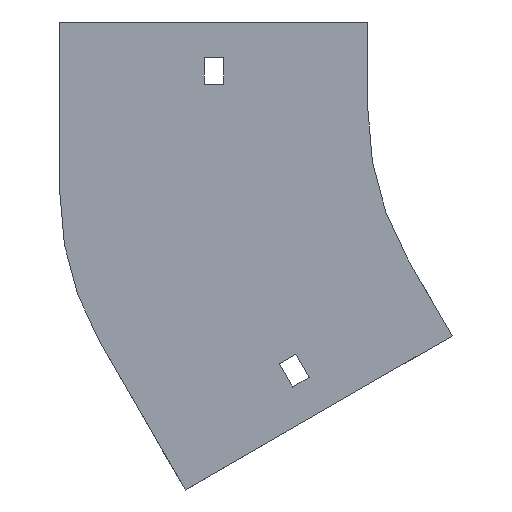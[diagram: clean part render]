
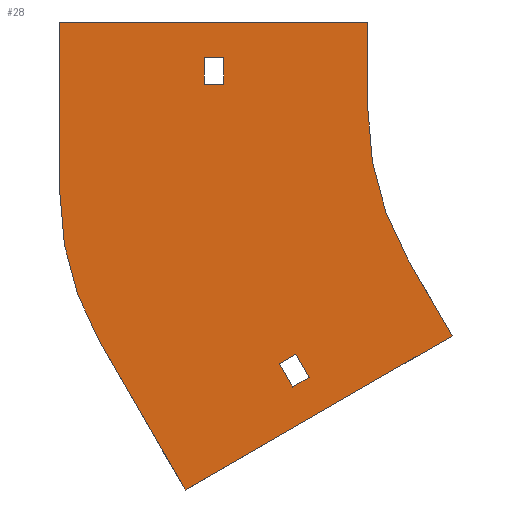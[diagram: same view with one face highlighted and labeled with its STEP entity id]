
A CAD part, front view. The second image highlights one B-rep face of the part: STEP entity #28.
In plain terms, the highlighted planar face has unit normal (0, -1, 0).
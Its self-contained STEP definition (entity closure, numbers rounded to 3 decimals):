
#28 = ADVANCED_FACE ( 'NONE', ( #1509, #1801, #145 ), #1519, .T. ) ;
#36 = DIRECTION ( 'NONE',  ( 0., 0., -1. ) ) ;
#47 = VERTEX_POINT ( 'NONE', #154 ) ;
#52 = CARTESIAN_POINT ( 'NONE',  ( -86.603, 0., -50. ) ) ;
#53 = VECTOR ( 'NONE', #1025, 1000. ) ;
#74 = VERTEX_POINT ( 'NONE', #461 ) ;
#81 = DIRECTION ( 'NONE',  ( 0., 0., 1. ) ) ;
#106 = VECTOR ( 'NONE', #666, 1000. ) ;
#114 = CARTESIAN_POINT ( 'NONE',  ( -161.669, 0., -127.981 ) ) ;
#139 = EDGE_CURVE ( 'NONE', #917, #202, #472, .T. ) ;
#145 = FACE_BOUND ( 'NONE', #1162, .T. ) ;
#154 = CARTESIAN_POINT ( 'NONE',  ( -155.25, 0., 18. ) ) ;
#202 = VERTEX_POINT ( 'NONE', #672 ) ;
#270 = DIRECTION ( 'NONE',  ( 0., 1., 0. ) ) ;
#281 = CARTESIAN_POINT ( 'NONE',  ( -148.75, 0., 18. ) ) ;
#287 = ORIENTED_EDGE ( 'NONE', *, *, #1040, .F. ) ;
#294 = EDGE_LOOP ( 'NONE', ( #1302, #1260, #321, #539, #1923, #1606, #287, #1077 ) ) ;
#300 = VECTOR ( 'NONE', #1696, 1000. ) ;
#305 = CIRCLE ( 'NONE', #340, 100. ) ;
#315 = EDGE_CURVE ( 'NONE', #1716, #930, #394, .T. ) ;
#321 = ORIENTED_EDGE ( 'NONE', *, *, #1390, .F. ) ;
#325 = ORIENTED_EDGE ( 'NONE', *, *, #796, .T. ) ;
#326 = CARTESIAN_POINT ( 'NONE',  ( -204., 0., -27.867 ) ) ;
#333 = VECTOR ( 'NONE', #1668, 1000. ) ;
#335 = CARTESIAN_POINT ( 'NONE',  ( -148.75, 0., 9. ) ) ;
#338 = AXIS2_PLACEMENT_3D ( 'NONE', #430, #895, #757 ) ;
#340 = AXIS2_PLACEMENT_3D ( 'NONE', #1005, #270, #883 ) ;
#366 = VERTEX_POINT ( 'NONE', #730 ) ;
#380 = CARTESIAN_POINT ( 'NONE',  ( -71.603, 0., -75.981 ) ) ;
#389 = EDGE_LOOP ( 'NONE', ( #325, #634, #1196, #1699 ) ) ;
#394 = LINE ( 'NONE', #380, #1250 ) ;
#415 = LINE ( 'NONE', #1448, #748 ) ;
#430 = CARTESIAN_POINT ( 'NONE',  ( 0., 0., 0. ) ) ;
#461 = CARTESIAN_POINT ( 'NONE',  ( -125.45, 0., -93.213 ) ) ;
#472 = LINE ( 'NONE', #335, #333 ) ;
#508 = EDGE_CURVE ( 'NONE', #1498, #1945, #1667, .T. ) ;
#522 = LINE ( 'NONE', #52, #106 ) ;
#539 = ORIENTED_EDGE ( 'NONE', *, *, #1825, .F. ) ;
#547 = CARTESIAN_POINT ( 'NONE',  ( -129.95, 0., -85.419 ) ) ;
#571 = CARTESIAN_POINT ( 'NONE',  ( -155.25, 0., 9. ) ) ;
#585 = CARTESIAN_POINT ( 'NONE',  ( -100., 0., 0. ) ) ;
#634 = ORIENTED_EDGE ( 'NONE', *, *, #645, .T. ) ;
#645 = EDGE_CURVE ( 'NONE', #47, #917, #1236, .T. ) ;
#666 = DIRECTION ( 'NONE',  ( 0.5, 0., -0.866 ) ) ;
#672 = CARTESIAN_POINT ( 'NONE',  ( -148.75, 0., 9. ) ) ;
#695 = CARTESIAN_POINT ( 'NONE',  ( -161.669, 0., -127.981 ) ) ;
#700 = CARTESIAN_POINT ( 'NONE',  ( -204., 0., -27.867 ) ) ;
#722 = CARTESIAN_POINT ( 'NONE',  ( -129.95, 0., -85.419 ) ) ;
#729 = EDGE_CURVE ( 'NONE', #202, #1010, #963, .T. ) ;
#730 = CARTESIAN_POINT ( 'NONE',  ( -86.603, 0., -50. ) ) ;
#748 = VECTOR ( 'NONE', #1330, 1000. ) ;
#756 = EDGE_CURVE ( 'NONE', #366, #1716, #522, .T. ) ;
#757 = DIRECTION ( 'NONE',  ( 0., 0., -1. ) ) ;
#774 = DIRECTION ( 'NONE',  ( 0., 0., -1. ) ) ;
#787 = VECTOR ( 'NONE', #36, 1000. ) ;
#796 = EDGE_CURVE ( 'NONE', #1010, #47, #415, .T. ) ;
#801 = DIRECTION ( 'NONE',  ( 1., 0., 0. ) ) ;
#813 = VECTOR ( 'NONE', #1598, 1000. ) ;
#837 = EDGE_CURVE ( 'NONE', #1119, #1498, #1169, .T. ) ;
#838 = EDGE_CURVE ( 'NONE', #879, #1261, #1297, .T. ) ;
#847 = VECTOR ( 'NONE', #1787, 1000. ) ;
#849 = EDGE_CURVE ( 'NONE', #74, #879, #1931, .T. ) ;
#876 = CIRCLE ( 'NONE', #338, 100. ) ;
#879 = VERTEX_POINT ( 'NONE', #1309 ) ;
#883 = DIRECTION ( 'NONE',  ( 0., 0., 1. ) ) ;
#895 = DIRECTION ( 'NONE',  ( 0., -1., 0. ) ) ;
#900 = EDGE_CURVE ( 'NONE', #1261, #947, #1629, .T. ) ;
#917 = VERTEX_POINT ( 'NONE', #281 ) ;
#930 = VERTEX_POINT ( 'NONE', #114 ) ;
#932 = CARTESIAN_POINT ( 'NONE',  ( -204., 0., 30. ) ) ;
#947 = VERTEX_POINT ( 'NONE', #547 ) ;
#963 = LINE ( 'NONE', #1134, #300 ) ;
#996 = CARTESIAN_POINT ( 'NONE',  ( -124.321, 0., -82.169 ) ) ;
#1005 = CARTESIAN_POINT ( 'NONE',  ( -104., 0., -27.867 ) ) ;
#1009 = LINE ( 'NONE', #1019, #1750 ) ;
#1010 = VERTEX_POINT ( 'NONE', #571 ) ;
#1013 = CARTESIAN_POINT ( 'NONE',  ( -100., 0., 30. ) ) ;
#1019 = CARTESIAN_POINT ( 'NONE',  ( -129.95, 0., -85.419 ) ) ;
#1025 = DIRECTION ( 'NONE',  ( -0.5, 0., 0.866 ) ) ;
#1040 = EDGE_CURVE ( 'NONE', #1866, #366, #876, .T. ) ;
#1077 = ORIENTED_EDGE ( 'NONE', *, *, #1574, .F. ) ;
#1108 = ORIENTED_EDGE ( 'NONE', *, *, #900, .F. ) ;
#1119 = VERTEX_POINT ( 'NONE', #326 ) ;
#1134 = CARTESIAN_POINT ( 'NONE',  ( -155.25, 0., 9. ) ) ;
#1153 = DIRECTION ( 'NONE',  ( 0.5, 0., -0.866 ) ) ;
#1162 = EDGE_LOOP ( 'NONE', ( #1884, #1202, #1108, #1267 ) ) ;
#1169 = LINE ( 'NONE', #700, #1500 ) ;
#1179 = AXIS2_PLACEMENT_3D ( 'NONE', #1648, #1382, #774 ) ;
#1196 = ORIENTED_EDGE ( 'NONE', *, *, #139, .T. ) ;
#1202 = ORIENTED_EDGE ( 'NONE', *, *, #1879, .F. ) ;
#1211 = VERTEX_POINT ( 'NONE', #1858 ) ;
#1236 = LINE ( 'NONE', #1640, #1278 ) ;
#1250 = VECTOR ( 'NONE', #1445, 1000. ) ;
#1260 = ORIENTED_EDGE ( 'NONE', *, *, #837, .F. ) ;
#1261 = VERTEX_POINT ( 'NONE', #1736 ) ;
#1267 = ORIENTED_EDGE ( 'NONE', *, *, #838, .F. ) ;
#1278 = VECTOR ( 'NONE', #801, 1000. ) ;
#1297 = LINE ( 'NONE', #996, #53 ) ;
#1302 = ORIENTED_EDGE ( 'NONE', *, *, #508, .F. ) ;
#1305 = VECTOR ( 'NONE', #1476, 1000. ) ;
#1309 = CARTESIAN_POINT ( 'NONE',  ( -119.821, 0., -89.963 ) ) ;
#1330 = DIRECTION ( 'NONE',  ( 0., 0., 1. ) ) ;
#1382 = DIRECTION ( 'NONE',  ( 0., -1., 0. ) ) ;
#1387 = CARTESIAN_POINT ( 'NONE',  ( -100., 0., 30. ) ) ;
#1390 = EDGE_CURVE ( 'NONE', #1211, #1119, #305, .T. ) ;
#1445 = DIRECTION ( 'NONE',  ( -0.866, 0., -0.5 ) ) ;
#1448 = CARTESIAN_POINT ( 'NONE',  ( -155.25, 0., 9. ) ) ;
#1453 = CARTESIAN_POINT ( 'NONE',  ( -204., 0., 30. ) ) ;
#1476 = DIRECTION ( 'NONE',  ( 0.866, 0., 0.5 ) ) ;
#1498 = VERTEX_POINT ( 'NONE', #1453 ) ;
#1500 = VECTOR ( 'NONE', #81, 1000. ) ;
#1509 = FACE_BOUND ( 'NONE', #389, .T. ) ;
#1519 = PLANE ( 'NONE',  #1179 ) ;
#1527 = DIRECTION ( 'NONE',  ( 1., 0., 0. ) ) ;
#1574 = EDGE_CURVE ( 'NONE', #1945, #1866, #1675, .T. ) ;
#1598 = DIRECTION ( 'NONE',  ( -0.866, 0., -0.5 ) ) ;
#1606 = ORIENTED_EDGE ( 'NONE', *, *, #756, .F. ) ;
#1629 = LINE ( 'NONE', #722, #813 ) ;
#1640 = CARTESIAN_POINT ( 'NONE',  ( -155.25, 0., 18. ) ) ;
#1648 = CARTESIAN_POINT ( 'NONE',  ( 0., 0., 0. ) ) ;
#1667 = LINE ( 'NONE', #932, #1743 ) ;
#1668 = DIRECTION ( 'NONE',  ( 0., 0., -1. ) ) ;
#1675 = LINE ( 'NONE', #1387, #787 ) ;
#1696 = DIRECTION ( 'NONE',  ( -1., 0., 0. ) ) ;
#1699 = ORIENTED_EDGE ( 'NONE', *, *, #729, .T. ) ;
#1716 = VERTEX_POINT ( 'NONE', #1882 ) ;
#1736 = CARTESIAN_POINT ( 'NONE',  ( -124.321, 0., -82.169 ) ) ;
#1740 = LINE ( 'NONE', #695, #847 ) ;
#1743 = VECTOR ( 'NONE', #1527, 1000. ) ;
#1750 = VECTOR ( 'NONE', #1153, 1000. ) ;
#1787 = DIRECTION ( 'NONE',  ( -0.5, 0., 0.866 ) ) ;
#1801 = FACE_OUTER_BOUND ( 'NONE', #294, .T. ) ;
#1825 = EDGE_CURVE ( 'NONE', #930, #1211, #1740, .T. ) ;
#1858 = CARTESIAN_POINT ( 'NONE',  ( -190.603, 0., -77.867 ) ) ;
#1866 = VERTEX_POINT ( 'NONE', #585 ) ;
#1879 = EDGE_CURVE ( 'NONE', #947, #74, #1009, .T. ) ;
#1882 = CARTESIAN_POINT ( 'NONE',  ( -71.603, 0., -75.981 ) ) ;
#1884 = ORIENTED_EDGE ( 'NONE', *, *, #849, .F. ) ;
#1911 = CARTESIAN_POINT ( 'NONE',  ( -125.45, 0., -93.213 ) ) ;
#1923 = ORIENTED_EDGE ( 'NONE', *, *, #315, .F. ) ;
#1931 = LINE ( 'NONE', #1911, #1305 ) ;
#1945 = VERTEX_POINT ( 'NONE', #1013 ) ;
